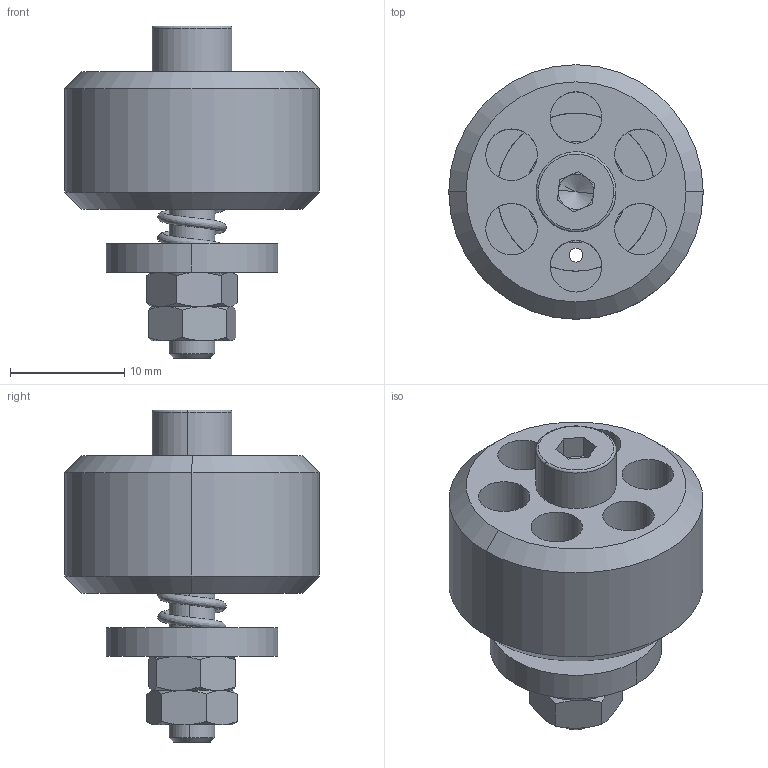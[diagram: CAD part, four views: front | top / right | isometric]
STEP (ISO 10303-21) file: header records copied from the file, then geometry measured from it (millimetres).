
FILE_DESCRIPTION (( 'STEP AP214' ), '1' );
FILE_NAME ('VSR78001.STEP', '2025-06-04T00:53:27', ( '' ), ( '' ), 'SwSTEP 2.0', 'SolidWorks 2023', '' );
FILE_SCHEMA (( 'AUTOMOTIVE_DESIGN' ));
Length unit declared in the file: millimetre
Products named in the file (1): VSR78001
Bounding box: 22.22 x 22.22 x 29 mm (x, y, z)
Surface area: 3841.4 mm2 (no closed solid volume)
Topology: 0 solids, 8 shells, 95 faces, 295 edges, 189 vertices
Faces by surface type: plane 38, cone 28, cylinder 26, torus 2, bspline 1
Entity records: 5549 total; most frequent: CARTESIAN_POINT 2940, DIRECTION 558, ORIENTED_EDGE 516, EDGE_CURVE 293, AXIS2_PLACEMENT_3D 231, VERTEX_POINT 189, CIRCLE 136, EDGE_LOOP 110
